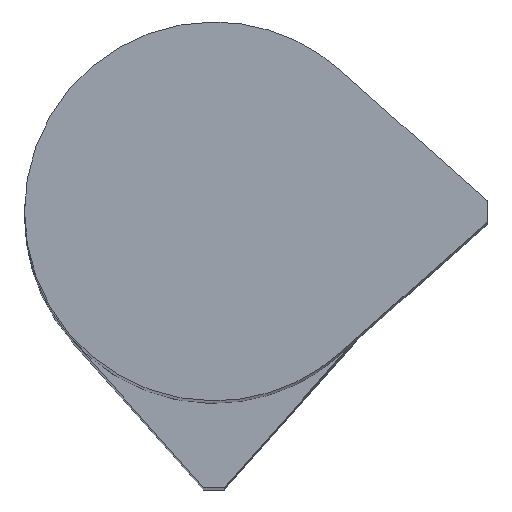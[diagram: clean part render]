
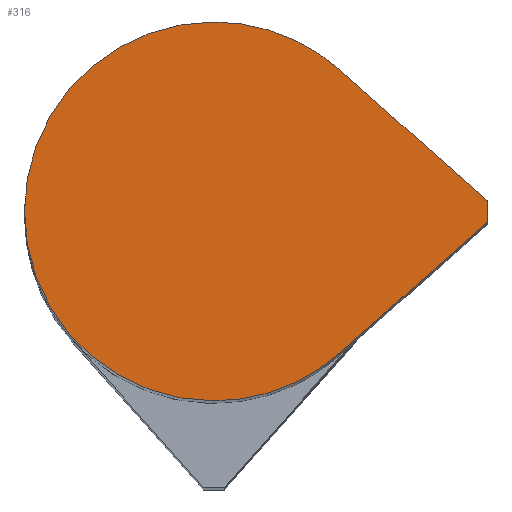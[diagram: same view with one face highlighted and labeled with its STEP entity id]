
A CAD part, top view. The second image highlights one B-rep face of the part: STEP entity #316.
In plain terms, the highlighted planar face has unit normal (0, 0, 1) as drawn and (0, 0, -1) by its records, which use the part's own axes.
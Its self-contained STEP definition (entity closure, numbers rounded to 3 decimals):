
#44 = EDGE_LOOP ( 'NONE', ( #2052, #2025, #510, #393, #999, #897 ) ) ;
#98 = CARTESIAN_POINT ( 'NONE',  ( -9., 0., 0. ) ) ;
#137 = DIRECTION ( 'NONE',  ( 0.664, -0.748, 0. ) ) ;
#192 = EDGE_CURVE ( 'NONE', #459, #1681, #959, .T. ) ;
#203 = LINE ( 'NONE', #607, #1486 ) ;
#272 = CARTESIAN_POINT ( 'NONE',  ( 9., 0., 0. ) ) ;
#273 = CARTESIAN_POINT ( 'NONE',  ( -0.5, -13., 0. ) ) ;
#316 = ADVANCED_FACE ( 'NONE', ( #985 ), #1395, .F. ) ;
#393 = ORIENTED_EDGE ( 'NONE', *, *, #192, .F. ) ;
#459 = VERTEX_POINT ( 'NONE', #892 ) ;
#464 = AXIS2_PLACEMENT_3D ( 'NONE', #1142, #1160, #1179 ) ;
#473 = CARTESIAN_POINT ( 'NONE',  ( 0.5, -13., 0. ) ) ;
#510 = ORIENTED_EDGE ( 'NONE', *, *, #1384, .F. ) ;
#538 = AXIS2_PLACEMENT_3D ( 'NONE', #1655, #1690, #1510 ) ;
#607 = CARTESIAN_POINT ( 'NONE',  ( 6.733, -5.972, 0. ) ) ;
#638 = VERTEX_POINT ( 'NONE', #98 ) ;
#705 = DIRECTION ( 'NONE',  ( 0.664, 0.748, 0. ) ) ;
#738 = EDGE_CURVE ( 'NONE', #1351, #1868, #1898, .T. ) ;
#840 = VECTOR ( 'NONE', #137, 1000. ) ;
#892 = CARTESIAN_POINT ( 'NONE',  ( -6.733, -5.972, 0. ) ) ;
#897 = ORIENTED_EDGE ( 'NONE', *, *, #1095, .F. ) ;
#957 = AXIS2_PLACEMENT_3D ( 'NONE', #1817, #1893, #1917 ) ;
#959 = LINE ( 'NONE', #1427, #840 ) ;
#985 = FACE_OUTER_BOUND ( 'NONE', #44, .T. ) ;
#999 = ORIENTED_EDGE ( 'NONE', *, *, #1195, .F. ) ;
#1095 = EDGE_CURVE ( 'NONE', #1868, #638, #1520, .T. ) ;
#1142 = CARTESIAN_POINT ( 'NONE',  ( 0., 0., 0. ) ) ;
#1160 = DIRECTION ( 'NONE',  ( 0., 0., 1. ) ) ;
#1166 = CARTESIAN_POINT ( 'NONE',  ( 6.733, -5.972, 0. ) ) ;
#1179 = DIRECTION ( 'NONE',  ( 1., 0., 0. ) ) ;
#1195 = EDGE_CURVE ( 'NONE', #638, #459, #2056, .T. ) ;
#1204 = CARTESIAN_POINT ( 'NONE',  ( 0., 0., 0. ) ) ;
#1209 = DIRECTION ( 'NONE',  ( 0., 0., 1. ) ) ;
#1218 = DIRECTION ( 'NONE',  ( 1., 0., 0. ) ) ;
#1220 = DIRECTION ( 'NONE',  ( 1., 0., 0. ) ) ;
#1250 = CARTESIAN_POINT ( 'NONE',  ( 0.5, -13., 0. ) ) ;
#1289 = EDGE_CURVE ( 'NONE', #1760, #1351, #203, .T. ) ;
#1333 = VECTOR ( 'NONE', #1218, 1000. ) ;
#1351 = VERTEX_POINT ( 'NONE', #1166 ) ;
#1384 = EDGE_CURVE ( 'NONE', #1681, #1760, #1781, .T. ) ;
#1395 = PLANE ( 'NONE',  #957 ) ;
#1403 = AXIS2_PLACEMENT_3D ( 'NONE', #1204, #1209, #1220 ) ;
#1427 = CARTESIAN_POINT ( 'NONE',  ( -0.5, -13., 0. ) ) ;
#1486 = VECTOR ( 'NONE', #705, 1000. ) ;
#1510 = DIRECTION ( 'NONE',  ( 1., 0., 0. ) ) ;
#1520 = CIRCLE ( 'NONE', #464, 9. ) ;
#1655 = CARTESIAN_POINT ( 'NONE',  ( 0., 0., 0. ) ) ;
#1681 = VERTEX_POINT ( 'NONE', #273 ) ;
#1690 = DIRECTION ( 'NONE',  ( 0., 0., 1. ) ) ;
#1760 = VERTEX_POINT ( 'NONE', #473 ) ;
#1781 = LINE ( 'NONE', #1250, #1333 ) ;
#1817 = CARTESIAN_POINT ( 'NONE',  ( 0., 0., 0. ) ) ;
#1868 = VERTEX_POINT ( 'NONE', #272 ) ;
#1893 = DIRECTION ( 'NONE',  ( 0., 0., 1. ) ) ;
#1898 = CIRCLE ( 'NONE', #1403, 9. ) ;
#1917 = DIRECTION ( 'NONE',  ( 1., 0., 0. ) ) ;
#2025 = ORIENTED_EDGE ( 'NONE', *, *, #1289, .F. ) ;
#2052 = ORIENTED_EDGE ( 'NONE', *, *, #738, .F. ) ;
#2056 = CIRCLE ( 'NONE', #538, 9. ) ;
